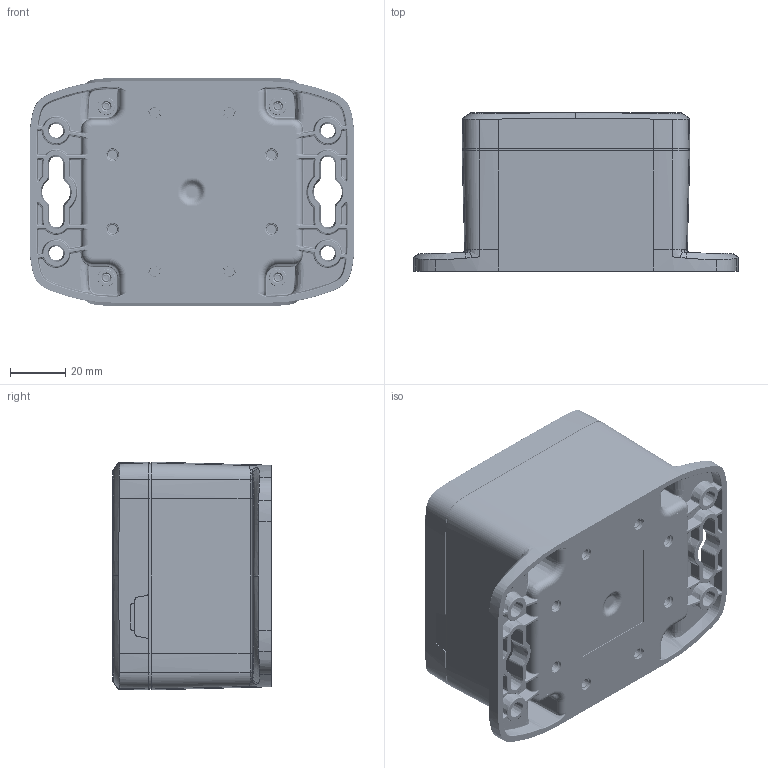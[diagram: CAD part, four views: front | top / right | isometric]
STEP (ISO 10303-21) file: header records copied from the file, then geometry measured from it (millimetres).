
FILE_DESCRIPTION (( 'STEP AP214' ), '1' );
FILE_NAME ('HN-33-01.STEP', '2026-09-24T17:56:25', ( '' ), ( '' ), 'SwSTEP 2.0', 'SolidWorks 2026', '' );
FILE_SCHEMA (( 'AUTOMOTIVE_DESIGN' ));
Length unit declared in the file: inch
Products named in the file (9): HN-33CG_HN-33CG-01; INSERTS-3_INSERTS-3; HN-33-01; HN-33BN_HN-33BFN-01; SCREWS-054_DEFAULT; LABEL-100; HN-33B_HN-33BF-01; HN-33C_HN-33C-01; HN-33G_default
Assembly tree (14 placements, depth 3):
  HN-33-01
    HN-33B_HN-33BF-01
      HN-33BN_HN-33BFN-01
      INSERTS-3_INSERTS-3  x4
      LABEL-100
    HN-33CG_HN-33CG-01
      HN-33C_HN-33C-01
      HN-33G_default
    SCREWS-054_DEFAULT  x4
Bounding box: 117.72 x 57.52 x 82.55 mm (x, y, z)
Volume: 125667.9 mm3; surface area: 94075.6 mm2
Topology: 11 solids, 13 shells, 3801 faces, 8982 edges, 5197 vertices
Faces by surface type: bspline 1028, torus 730, cylinder 686, cone 648, plane 645, sphere 64
Full cylindrical faces by diameter (mm): 2.413 x4, 2.705 x4, 4.318 x4, 4.445 x16, 4.699 x8, 5.283 x8, 6.274 x4, 6.858 x4
Entity records: 130611 total; most frequent: CARTESIAN_POINT 59971, ORIENTED_EDGE 15706, DIRECTION 12965, EDGE_CURVE 7856, AXIS2_PLACEMENT_3D 5526, VERTEX_POINT 4705, EDGE_LOOP 3702, FACE_OUTER_BOUND 3495
